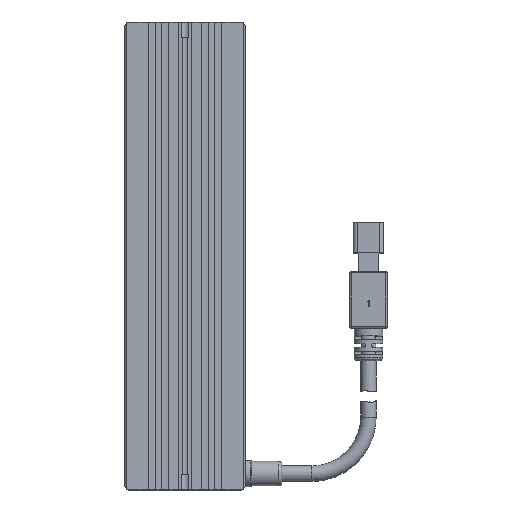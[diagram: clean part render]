
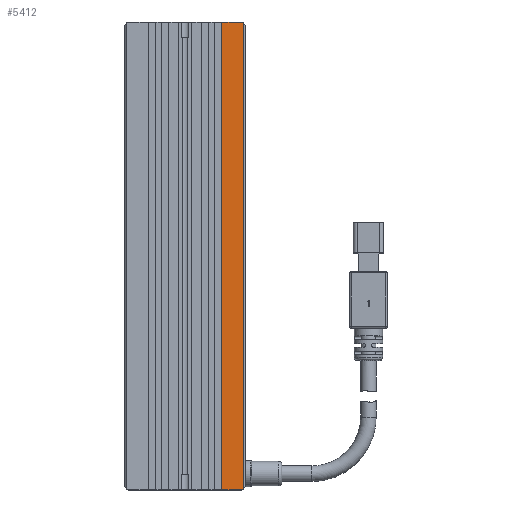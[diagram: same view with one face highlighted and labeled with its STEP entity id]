
A CAD part, top view. The second image highlights one B-rep face of the part: STEP entity #5412.
In plain terms, the highlighted planar face has unit normal (0, 0, 1).
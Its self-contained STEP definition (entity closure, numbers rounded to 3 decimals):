
#315 = EDGE_CURVE ( 'NONE', #2521, #14465, #9948, .T. ) ;
#465 = DIRECTION ( 'NONE',  ( -0.707, 0.707, 0. ) ) ;
#600 = DIRECTION ( 'NONE',  ( -1., 0., 0. ) ) ;
#675 = EDGE_CURVE ( 'NONE', #3753, #14465, #10155, .T. ) ;
#935 = VECTOR ( 'NONE', #12510, 1000. ) ;
#2521 = VERTEX_POINT ( 'NONE', #17486 ) ;
#3317 = LINE ( 'NONE', #16020, #10359 ) ;
#3392 = LINE ( 'NONE', #16629, #935 ) ;
#3538 = CARTESIAN_POINT ( 'NONE',  ( 9.7, 62., 12.5 ) ) ;
#3753 = VERTEX_POINT ( 'NONE', #10092 ) ;
#4321 = DIRECTION ( 'NONE',  ( 0., -1., 0. ) ) ;
#4904 = CARTESIAN_POINT ( 'NONE',  ( 16., -61., 12.5 ) ) ;
#4960 = EDGE_CURVE ( 'NONE', #3753, #15609, #3317, .T. ) ;
#5137 = LINE ( 'NONE', #7088, #6018 ) ;
#5412 = ADVANCED_FACE ( 'NONE', ( #10793 ), #17570, .F. ) ;
#6018 = VECTOR ( 'NONE', #10080, 1000. ) ;
#7037 = ORIENTED_EDGE ( 'NONE', *, *, #9328, .T. ) ;
#7073 = ORIENTED_EDGE ( 'NONE', *, *, #4960, .T. ) ;
#7088 = CARTESIAN_POINT ( 'NONE',  ( 15.5, 62., 12.5 ) ) ;
#7423 = VECTOR ( 'NONE', #15093, 1000. ) ;
#7777 = CARTESIAN_POINT ( 'NONE',  ( 15.5, -61.5, 12.5 ) ) ;
#8217 = VERTEX_POINT ( 'NONE', #13035 ) ;
#8244 = ORIENTED_EDGE ( 'NONE', *, *, #12131, .T. ) ;
#8432 = VECTOR ( 'NONE', #14735, 1000. ) ;
#8522 = LINE ( 'NONE', #12205, #7423 ) ;
#9036 = DIRECTION ( 'NONE',  ( 0., 0., -1. ) ) ;
#9328 = EDGE_CURVE ( 'NONE', #8217, #2521, #3392, .T. ) ;
#9379 = AXIS2_PLACEMENT_3D ( 'NONE', #14628, #9036, #600 ) ;
#9620 = ORIENTED_EDGE ( 'NONE', *, *, #675, .F. ) ;
#9948 = LINE ( 'NONE', #4904, #8432 ) ;
#10080 = DIRECTION ( 'NONE',  ( 1., 0., 0. ) ) ;
#10092 = CARTESIAN_POINT ( 'NONE',  ( 15.5, 61.5, 12.5 ) ) ;
#10155 = LINE ( 'NONE', #15551, #13916 ) ;
#10359 = VECTOR ( 'NONE', #465, 1000. ) ;
#10375 = ORIENTED_EDGE ( 'NONE', *, *, #315, .T. ) ;
#10793 = FACE_OUTER_BOUND ( 'NONE', #14944, .T. ) ;
#12131 = EDGE_CURVE ( 'NONE', #13890, #8217, #8522, .T. ) ;
#12205 = CARTESIAN_POINT ( 'NONE',  ( 9.7, 62., 12.5 ) ) ;
#12510 = DIRECTION ( 'NONE',  ( 1., 0., 0. ) ) ;
#13035 = CARTESIAN_POINT ( 'NONE',  ( 9.7, -62., 12.5 ) ) ;
#13890 = VERTEX_POINT ( 'NONE', #3538 ) ;
#13916 = VECTOR ( 'NONE', #4321, 1000. ) ;
#14465 = VERTEX_POINT ( 'NONE', #7777 ) ;
#14628 = CARTESIAN_POINT ( 'NONE',  ( 15.5, 62., 12.5 ) ) ;
#14735 = DIRECTION ( 'NONE',  ( 0.707, 0.707, 0. ) ) ;
#14906 = ORIENTED_EDGE ( 'NONE', *, *, #15279, .F. ) ;
#14944 = EDGE_LOOP ( 'NONE', ( #9620, #7073, #14906, #8244, #7037, #10375 ) ) ;
#15093 = DIRECTION ( 'NONE',  ( 0., -1., 0. ) ) ;
#15279 = EDGE_CURVE ( 'NONE', #13890, #15609, #5137, .T. ) ;
#15551 = CARTESIAN_POINT ( 'NONE',  ( 15.5, 62., 12.5 ) ) ;
#15609 = VERTEX_POINT ( 'NONE', #18192 ) ;
#16020 = CARTESIAN_POINT ( 'NONE',  ( 15., 62., 12.5 ) ) ;
#16629 = CARTESIAN_POINT ( 'NONE',  ( 15.5, -62., 12.5 ) ) ;
#17486 = CARTESIAN_POINT ( 'NONE',  ( 15., -62., 12.5 ) ) ;
#17570 = PLANE ( 'NONE',  #9379 ) ;
#18192 = CARTESIAN_POINT ( 'NONE',  ( 15., 62., 12.5 ) ) ;
